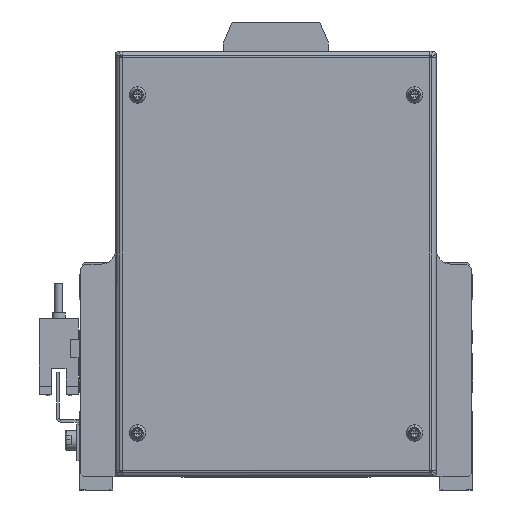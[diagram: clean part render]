
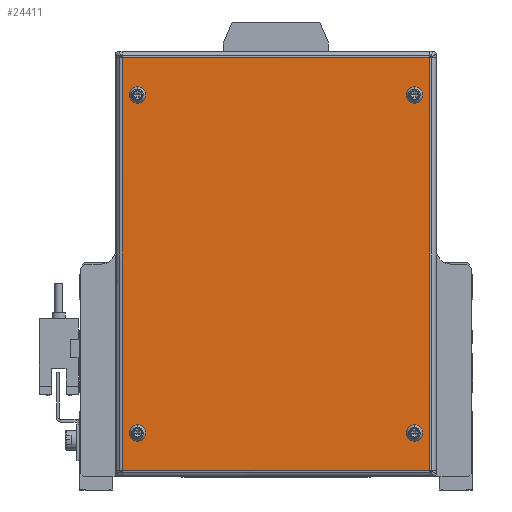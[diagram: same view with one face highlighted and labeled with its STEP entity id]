
A CAD part, front view. The second image highlights one B-rep face of the part: STEP entity #24411.
In plain terms, the highlighted planar face has unit normal (0, -1, 0) as drawn and (0, 0, 1) by its records, which use the part's own axes.
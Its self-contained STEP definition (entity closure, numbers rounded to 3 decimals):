
#6 = DIRECTION ( 'NONE',  ( 0., 0., 1. ) ) ;
#155 = CARTESIAN_POINT ( 'NONE',  ( 51.104, -87.64, 400.5 ) ) ;
#624 = ORIENTED_EDGE ( 'NONE', *, *, #29648, .F. ) ;
#1402 = LINE ( 'NONE', #29276, #16746 ) ;
#2750 = DIRECTION ( 'NONE',  ( 0., -1., 0. ) ) ;
#3602 = AXIS2_PLACEMENT_3D ( 'NONE', #39220, #53999, #28812 ) ;
#4593 = CARTESIAN_POINT ( 'NONE',  ( -43.896, -91.64, 400.5 ) ) ;
#4735 = ORIENTED_EDGE ( 'NONE', *, *, #20246, .F. ) ;
#5672 = DIRECTION ( 'NONE',  ( -1., 0., 0. ) ) ;
#5940 = DIRECTION ( 'NONE',  ( 0., -1., 0. ) ) ;
#6046 = DIRECTION ( 'NONE',  ( 0., -1., 0. ) ) ;
#6428 = AXIS2_PLACEMENT_3D ( 'NONE', #20442, #62403, #10334 ) ;
#7164 = DIRECTION ( 'NONE',  ( 0., 0., 1. ) ) ;
#7586 = ORIENTED_EDGE ( 'NONE', *, *, #30772, .F. ) ;
#7950 = CARTESIAN_POINT ( 'NONE',  ( -17.356, 12.71, 400.5 ) ) ;
#8043 = CIRCLE ( 'NONE', #39202, 2. ) ;
#8304 = ORIENTED_EDGE ( 'NONE', *, *, #32836, .T. ) ;
#8346 = EDGE_CURVE ( 'NONE', #11920, #15932, #8733, .T. ) ;
#8733 = LINE ( 'NONE', #36096, #58585 ) ;
#8755 = EDGE_CURVE ( 'NONE', #23201, #56151, #34406, .T. ) ;
#9046 = DIRECTION ( 'NONE',  ( 0., 0., 1. ) ) ;
#10189 = ORIENTED_EDGE ( 'NONE', *, *, #8755, .F. ) ;
#10319 = AXIS2_PLACEMENT_3D ( 'NONE', #35861, #6, #10425 ) ;
#10334 = DIRECTION ( 'NONE',  ( 0., -1., 0. ) ) ;
#10425 = DIRECTION ( 'NONE',  ( 0., -1., 0. ) ) ;
#11920 = VERTEX_POINT ( 'NONE', #15629 ) ;
#12073 = FACE_BOUND ( 'NONE', #32033, .T. ) ;
#12600 = LINE ( 'NONE', #63898, #65670 ) ;
#12703 = EDGE_LOOP ( 'NONE', ( #55568, #51520, #8304, #50306 ) ) ;
#13707 = CARTESIAN_POINT ( 'NONE',  ( -43.896, -87.64, 400.5 ) ) ;
#13710 = FACE_BOUND ( 'NONE', #47865, .T. ) ;
#14157 = EDGE_CURVE ( 'NONE', #15932, #40223, #12600, .T. ) ;
#14679 = DIRECTION ( 'NONE',  ( 1., 0., 0. ) ) ;
#15629 = CARTESIAN_POINT ( 'NONE',  ( 56.367, 39.124, 400.5 ) ) ;
#15932 = VERTEX_POINT ( 'NONE', #65647 ) ;
#15985 = ORIENTED_EDGE ( 'NONE', *, *, #28096, .F. ) ;
#16746 = VECTOR ( 'NONE', #49783, 1000. ) ;
#20246 = EDGE_CURVE ( 'NONE', #56409, #55795, #28074, .T. ) ;
#20442 = CARTESIAN_POINT ( 'NONE',  ( 51.104, 26.36, 400.5 ) ) ;
#21990 = DIRECTION ( 'NONE',  ( 0., -1., 0. ) ) ;
#23201 = VERTEX_POINT ( 'NONE', #44615 ) ;
#24411 = ADVANCED_FACE ( 'NONE', ( #50763, #13710, #12073, #32197, #57935 ), #59197, .T. ) ;
#25786 = AXIS2_PLACEMENT_3D ( 'NONE', #7950, #59874, #6046 ) ;
#26177 = AXIS2_PLACEMENT_3D ( 'NONE', #52494, #62347, #5940 ) ;
#27595 = DIRECTION ( 'NONE',  ( 0., -1., 0. ) ) ;
#28074 = CIRCLE ( 'NONE', #58321, 2. ) ;
#28096 = EDGE_CURVE ( 'NONE', #34349, #60825, #47213, .T. ) ;
#28812 = DIRECTION ( 'NONE',  ( 0., -1., 0. ) ) ;
#29276 = CARTESIAN_POINT ( 'NONE',  ( 56.367, -102.433, 400.5 ) ) ;
#29648 = EDGE_CURVE ( 'NONE', #57539, #62117, #45522, .T. ) ;
#30733 = DIRECTION ( 'NONE',  ( 0., -1., 0. ) ) ;
#30772 = EDGE_CURVE ( 'NONE', #56151, #23201, #57166, .T. ) ;
#31344 = CARTESIAN_POINT ( 'NONE',  ( -49.16, -102.403, 400.5 ) ) ;
#32033 = EDGE_LOOP ( 'NONE', ( #624, #66452 ) ) ;
#32197 = FACE_BOUND ( 'NONE', #46702, .T. ) ;
#32627 = AXIS2_PLACEMENT_3D ( 'NONE', #53261, #7164, #27595 ) ;
#32836 = EDGE_CURVE ( 'NONE', #35753, #11920, #1402, .T. ) ;
#34349 = VERTEX_POINT ( 'NONE', #37490 ) ;
#34406 = CIRCLE ( 'NONE', #3602, 2. ) ;
#35753 = VERTEX_POINT ( 'NONE', #63409 ) ;
#35861 = CARTESIAN_POINT ( 'NONE',  ( 51.104, -89.64, 400.5 ) ) ;
#36096 = CARTESIAN_POINT ( 'NONE',  ( 56.397, 39.124, 400.5 ) ) ;
#37346 = DIRECTION ( 'NONE',  ( 0., 0., 1. ) ) ;
#37490 = CARTESIAN_POINT ( 'NONE',  ( 51.104, 28.36, 400.5 ) ) ;
#38037 = CARTESIAN_POINT ( 'NONE',  ( 51.104, 24.36, 400.5 ) ) ;
#39202 = AXIS2_PLACEMENT_3D ( 'NONE', #61507, #40502, #30733 ) ;
#39220 = CARTESIAN_POINT ( 'NONE',  ( -43.896, 26.36, 400.5 ) ) ;
#39465 = CARTESIAN_POINT ( 'NONE',  ( -43.896, 24.36, 400.5 ) ) ;
#40223 = VERTEX_POINT ( 'NONE', #31344 ) ;
#40502 = DIRECTION ( 'NONE',  ( 0., 0., 1. ) ) ;
#41715 = EDGE_CURVE ( 'NONE', #60825, #34349, #64109, .T. ) ;
#42854 = EDGE_CURVE ( 'NONE', #40223, #35753, #62796, .T. ) ;
#44615 = CARTESIAN_POINT ( 'NONE',  ( -43.896, 28.36, 400.5 ) ) ;
#45522 = CIRCLE ( 'NONE', #46420, 2. ) ;
#46104 = CARTESIAN_POINT ( 'NONE',  ( -43.896, -89.64, 400.5 ) ) ;
#46420 = AXIS2_PLACEMENT_3D ( 'NONE', #46104, #37346, #21990 ) ;
#46702 = EDGE_LOOP ( 'NONE', ( #58508, #4735 ) ) ;
#47213 = CIRCLE ( 'NONE', #32627, 2. ) ;
#47865 = EDGE_LOOP ( 'NONE', ( #7586, #10189 ) ) ;
#48959 = CARTESIAN_POINT ( 'NONE',  ( 51.104, -91.64, 400.5 ) ) ;
#49783 = DIRECTION ( 'NONE',  ( 0., 1., 0. ) ) ;
#50216 = DIRECTION ( 'NONE',  ( 0., -1., 0. ) ) ;
#50306 = ORIENTED_EDGE ( 'NONE', *, *, #8346, .T. ) ;
#50763 = FACE_BOUND ( 'NONE', #59185, .T. ) ;
#50850 = EDGE_CURVE ( 'NONE', #62117, #57539, #8043, .T. ) ;
#51520 = ORIENTED_EDGE ( 'NONE', *, *, #42854, .T. ) ;
#52494 = CARTESIAN_POINT ( 'NONE',  ( -43.896, 26.36, 400.5 ) ) ;
#53261 = CARTESIAN_POINT ( 'NONE',  ( 51.104, 26.36, 400.5 ) ) ;
#53999 = DIRECTION ( 'NONE',  ( 0., 0., 1. ) ) ;
#54006 = VECTOR ( 'NONE', #14679, 1000. ) ;
#55568 = ORIENTED_EDGE ( 'NONE', *, *, #14157, .T. ) ;
#55795 = VERTEX_POINT ( 'NONE', #48959 ) ;
#56151 = VERTEX_POINT ( 'NONE', #39465 ) ;
#56409 = VERTEX_POINT ( 'NONE', #155 ) ;
#57166 = CIRCLE ( 'NONE', #26177, 2. ) ;
#57539 = VERTEX_POINT ( 'NONE', #4593 ) ;
#57935 = FACE_OUTER_BOUND ( 'NONE', #12703, .T. ) ;
#58321 = AXIS2_PLACEMENT_3D ( 'NONE', #66123, #9046, #50216 ) ;
#58508 = ORIENTED_EDGE ( 'NONE', *, *, #63896, .F. ) ;
#58585 = VECTOR ( 'NONE', #5672, 1000. ) ;
#59185 = EDGE_LOOP ( 'NONE', ( #59761, #15985 ) ) ;
#59197 = PLANE ( 'NONE',  #25786 ) ;
#59761 = ORIENTED_EDGE ( 'NONE', *, *, #41715, .F. ) ;
#59851 = CIRCLE ( 'NONE', #10319, 2. ) ;
#59874 = DIRECTION ( 'NONE',  ( 0., 0., 1. ) ) ;
#60825 = VERTEX_POINT ( 'NONE', #38037 ) ;
#61507 = CARTESIAN_POINT ( 'NONE',  ( -43.896, -89.64, 400.5 ) ) ;
#62117 = VERTEX_POINT ( 'NONE', #13707 ) ;
#62347 = DIRECTION ( 'NONE',  ( 0., 0., 1. ) ) ;
#62403 = DIRECTION ( 'NONE',  ( 0., 0., 1. ) ) ;
#62796 = LINE ( 'NONE', #65686, #54006 ) ;
#63409 = CARTESIAN_POINT ( 'NONE',  ( 56.367, -102.403, 400.5 ) ) ;
#63896 = EDGE_CURVE ( 'NONE', #55795, #56409, #59851, .T. ) ;
#63898 = CARTESIAN_POINT ( 'NONE',  ( -49.16, 39.153, 400.5 ) ) ;
#64109 = CIRCLE ( 'NONE', #6428, 2. ) ;
#65647 = CARTESIAN_POINT ( 'NONE',  ( -49.16, 39.124, 400.5 ) ) ;
#65670 = VECTOR ( 'NONE', #2750, 1000. ) ;
#65686 = CARTESIAN_POINT ( 'NONE',  ( -49.189, -102.403, 400.5 ) ) ;
#66123 = CARTESIAN_POINT ( 'NONE',  ( 51.104, -89.64, 400.5 ) ) ;
#66452 = ORIENTED_EDGE ( 'NONE', *, *, #50850, .F. ) ;
